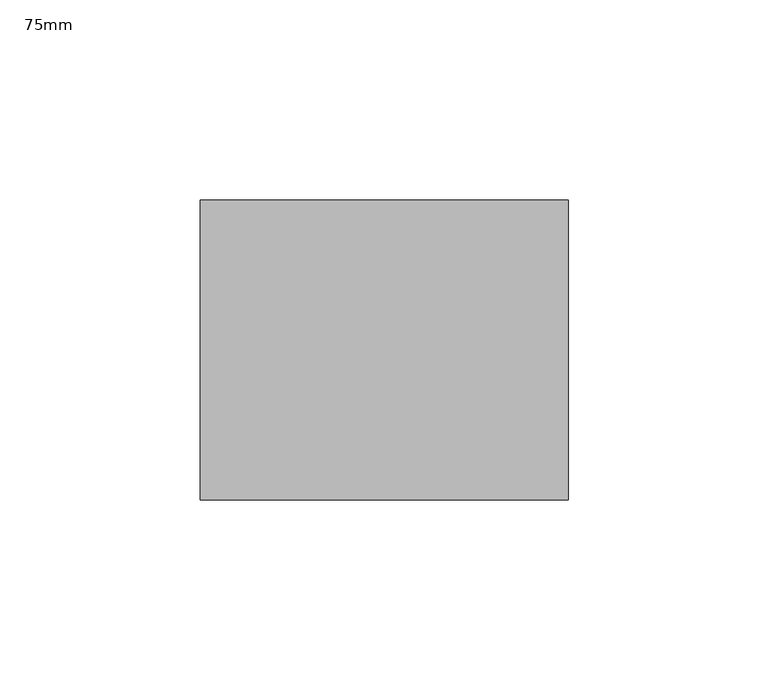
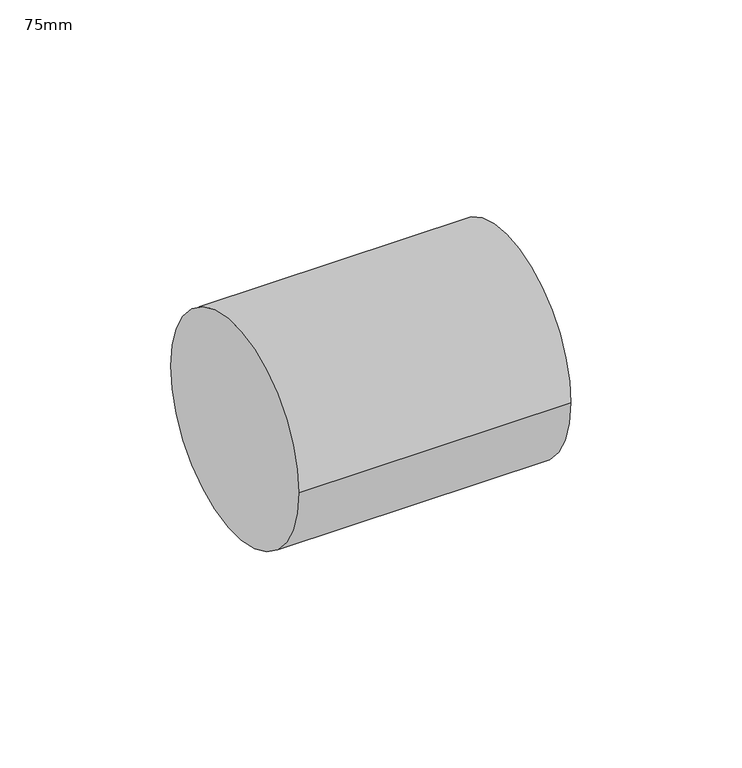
"""IFC4 building model written with IfcOpenShell, lengths in millimetres: pipe fitting geometry, PipeFitting_HTA_CPVC_PlainNipples : 75mm."""

from ifc_helpers import new_model, si_unit, point, frame, origin, origin_2d, place, context, project, spatial, circle_curve, trimmed, segment, composite_curve, outline, extrude, source, transform, mapped, element, save


def pipe_fitting_75mm_297368dc(model_context):
    return source(origin(), model_context, "Body", "SweptSolid", [
        extrude(outline(composite_curve([segment(trimmed(circle_curve(origin_2d(), 37.5), [point((-37.5, 0.0))], [point((37.5, 0.0))], False, "CARTESIAN"), True, "CONTINUOUS"), segment(trimmed(circle_curve(origin_2d(), 37.5), [point((37.5, 0.0))], [point((-37.5, 0.0))], False, "CARTESIAN"), True, "CONTINUOUS")], self_intersect=False)), frame((-46.0, 0.0, 0.0), z_axis=(1.0, 0.0, 0.0), x_axis=(0.0, 1.0, 0.0)), (0.0, 0.0, 1.0), 92.0),
    ])


if __name__ == "__main__":
    model = new_model("IFC4")
    model_context = context("Model", 3, world=origin())
    ifc_project = project(units=[si_unit("LENGTHUNIT", "METRE", prefix="MILLI")], contexts=[model_context])
    site = spatial("IfcSite", under=ifc_project)
    building = spatial("IfcBuilding", under=site)
    placement = place(None, origin())
    pipe_fitting_75mm_shape = pipe_fitting_75mm_297368dc(model_context)
    element("IfcPipeFitting", 1, ObjectType="PipeFitting_HTA_CPVC_PlainNipples : 75mm", at=placement, inside=building, context=model_context, shape_type="MappedRepresentation", body=[
        mapped(pipe_fitting_75mm_shape, transform((0.0, 0.0, 0.0), x_axis=(1.0, 0.0, 0.0), y_axis=(0.0, 1.0, 0.0), z_axis=(0.0, 0.0, 1.0))),
    ])
    save(model, "model.ifc")
